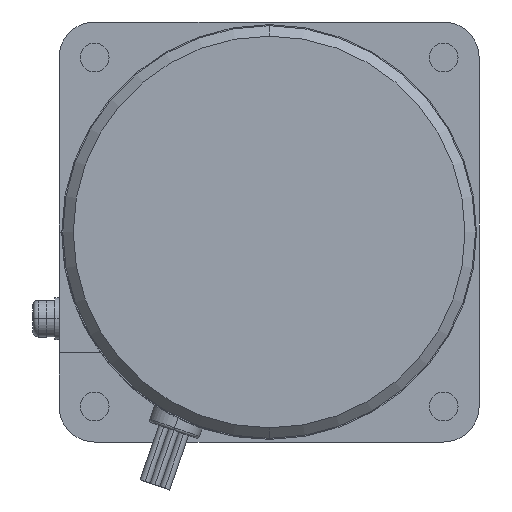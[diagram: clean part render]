
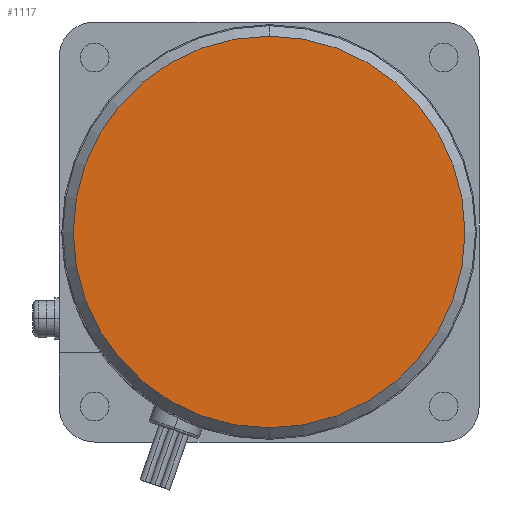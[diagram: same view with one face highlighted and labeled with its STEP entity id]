
A CAD part, left-side view. The second image highlights one B-rep face of the part: STEP entity #1117.
In plain terms, the highlighted planar face has unit normal (-1, 0, 0).
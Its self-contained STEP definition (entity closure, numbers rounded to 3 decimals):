
#1097=CARTESIAN_POINT('POINT540475',(-127.5,0.,
   22.3));
#1098=VERTEX_POINT('VERTEX540475',#1097);
#1099=CARTESIAN_POINT('POINT540476',(-127.5,0.,
   -52.3));
#1100=VERTEX_POINT('VERTEX540476',#1099);
#1101=CARTESIAN_POINT('POS886595',(-127.5,0.,-15.));
#1102=DIRECTION('DIR1302317',(1.,0.,0.));
#1103=DIRECTION('DIR1302318',(0.,0.,1.));
#1104=AXIS2_PLACEMENT_3D('AXIS415723',#1101,#1102,#1103);
#1105=CIRCLE('ELLIPSE176753',#1104,37.3);
#1106=EDGE_CURVE('EDGE835605',#1098,#1100,#1105,.T.);
#1107=ORIENTED_EDGE('COEDGE1671763',*,*,#1106,.F.);
#1108=EDGE_CURVE('EDGE835606',#1100,#1098,#1105,.T.);
#1109=ORIENTED_EDGE('COEDGE1671764',*,*,#1108,.F.);
#1110=EDGE_LOOP('NONE',(#1107,#1109));
#1111=FACE_BOUND('LOOP1',#1110,.T.);
#1112=CARTESIAN_POINT('POS886596',(-127.5,0.,
   3.65));
#1113=DIRECTION('DIR1302319',(-1.,0.,0.));
#1114=DIRECTION('DIR1302320',(0.,1.,0.));
#1115=AXIS2_PLACEMENT_3D('AXIS415724',#1112,#1113,#1114);
#1116=PLANE('PLANE160452',#1115);
#1117=ADVANCED_FACE('FACE331418',(#1111),#1116,.T.);
